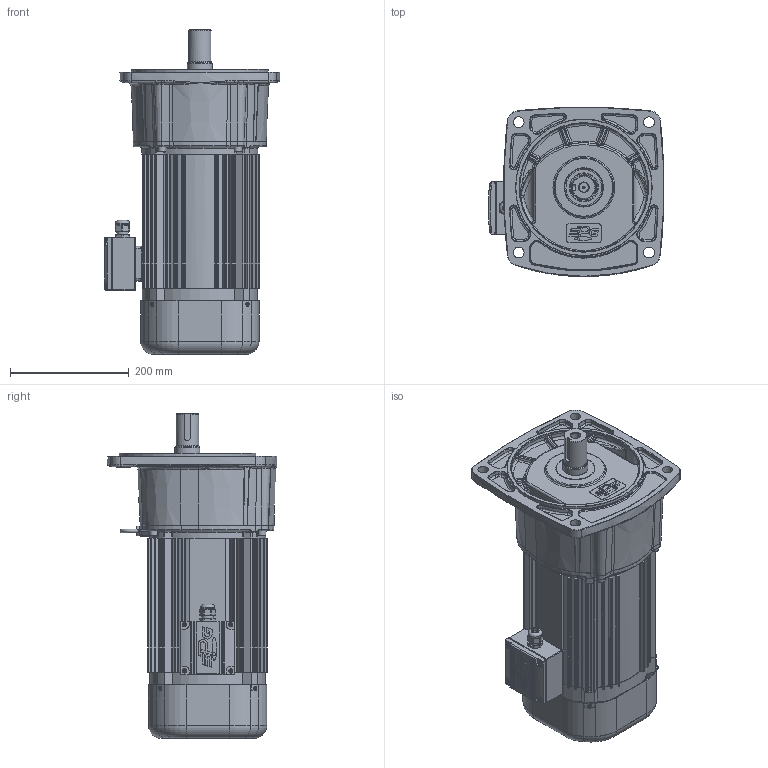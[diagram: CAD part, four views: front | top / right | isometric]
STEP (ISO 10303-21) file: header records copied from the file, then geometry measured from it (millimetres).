
FILE_DESCRIPTION(/* description */ (''),/* implementation_level */ '2;1');
FILE_NAME(/* name */ 'Z:\동력 3D 파일\PAF40_2.2kW_Brake_3D.stp',/* time_stamp */ '2021-11-08T16:24:35+09:00',/* author */ ('jaebok'),/* organization */ (''),/* preprocessor_version */ 'ST-DEVELOPER v18.1',/* originating_system */ 'Autodesk Inventor 2022',/* authorisation */ '');
FILE_SCHEMA (('AUTOMOTIVE_DESIGN { 1 0 10303 214 3 1 1 }','FEATURE_BASED_PROCESS_PLANNING'));
Products named in the file (1): 부품28
Bounding box: 295.62 x 284.62 x 545.6 mm (x, y, z)
Volume: 5832548.6 mm3; surface area: 1273108.3 mm2
Topology: 1 solids, 32 shells, 3769 faces, 9462 edges, 5673 vertices
Faces by surface type: plane 1088, bspline 1038, cylinder 948, torus 347, cone 265, sphere 83
Full cylindrical faces by diameter (mm): 2 x1, 3.242 x4, 3.25 x1, 3.6 x4, 4 x21, 5 x13, 6 x5, 6.647 x5, 6.8 x4, 7 x9, 8 x9, 8.8 x4, 9 x4, 10 x1, 12.5 x1, 13 x4, 15 x1, 16 x1, 20 x2, 20.6 x1, 21 x1, 23.5 x1, 23.6 x1, 25 x1, 28 x1, 36 x1, 38 x1, 39.6 x1, 40 x1, 40.15 x1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
Entity records: 152426 total; most frequent: CARTESIAN_POINT 65363, ORIENTED_EDGE 18536, DIRECTION 15894, EDGE_CURVE 9268, AXIS2_PLACEMENT_3D 6460, VERTEX_POINT 5672, EDGE_LOOP 4002, FACE_OUTER_BOUND 3769
